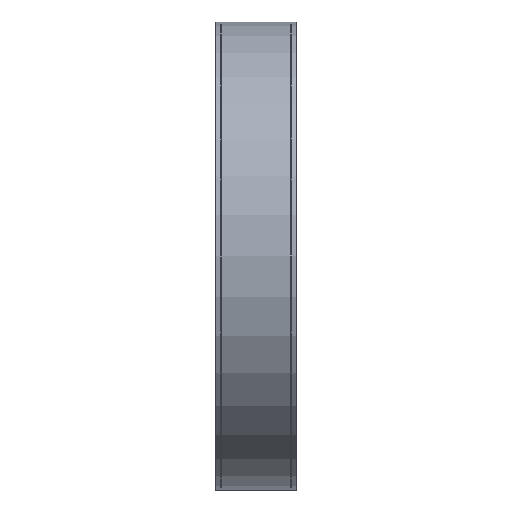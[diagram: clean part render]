
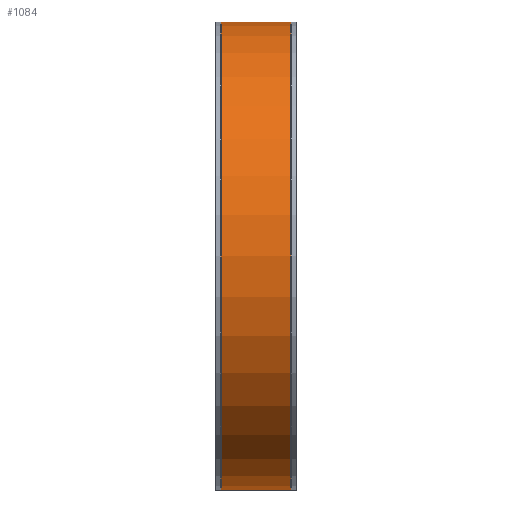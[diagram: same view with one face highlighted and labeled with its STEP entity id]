
A CAD part, left-side view. The second image highlights one B-rep face of the part: STEP entity #1084.
In plain terms, the highlighted cylindrical face has radius 40.45 mm (diameter 80.9 mm), a partial arc.
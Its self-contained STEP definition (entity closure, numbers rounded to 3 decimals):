
#575 = EDGE_CURVE ( 'NONE', #15438, #28349, #1631, .T. ) ;
#1084 = ADVANCED_FACE ( 'NONE', ( #20717 ), #7111, .T. ) ;
#1548 = DIRECTION ( 'NONE',  ( 0., -1., 0. ) ) ;
#1631 = CIRCLE ( 'NONE', #27017, 40.45 ) ;
#1700 = CARTESIAN_POINT ( 'NONE',  ( 0., 13., 0. ) ) ;
#2533 = EDGE_CURVE ( 'NONE', #29764, #15438, #15686, .T. ) ;
#2676 = CARTESIAN_POINT ( 'NONE',  ( 0., -15., 0. ) ) ;
#3009 = VECTOR ( 'NONE', #8865, 1000. ) ;
#3529 = ORIENTED_EDGE ( 'NONE', *, *, #29723, .T. ) ;
#3837 = LINE ( 'NONE', #13170, #3009 ) ;
#4517 = DIRECTION ( 'NONE',  ( 0., 0., 1. ) ) ;
#5696 = CARTESIAN_POINT ( 'NONE',  ( 0., 1., 40.45 ) ) ;
#5853 = CARTESIAN_POINT ( 'NONE',  ( 0., 1., 0. ) ) ;
#7111 = CYLINDRICAL_SURFACE ( 'NONE', #13848, 40.45 ) ;
#8797 = EDGE_LOOP ( 'NONE', ( #25715, #3529, #16043, #19627 ) ) ;
#8865 = DIRECTION ( 'NONE',  ( 0., 1., 0. ) ) ;
#13170 = CARTESIAN_POINT ( 'NONE',  ( 0., -15., -40.45 ) ) ;
#13848 = AXIS2_PLACEMENT_3D ( 'NONE', #2676, #23022, #4517 ) ;
#15438 = VERTEX_POINT ( 'NONE', #20375 ) ;
#15686 = LINE ( 'NONE', #20427, #20737 ) ;
#16043 = ORIENTED_EDGE ( 'NONE', *, *, #2533, .T. ) ;
#17151 = DIRECTION ( 'NONE',  ( 0., 0., 1. ) ) ;
#17695 = CARTESIAN_POINT ( 'NONE',  ( 0., 13., -40.45 ) ) ;
#18429 = DIRECTION ( 'NONE',  ( 0., 1., 0. ) ) ;
#19627 = ORIENTED_EDGE ( 'NONE', *, *, #575, .T. ) ;
#19731 = DIRECTION ( 'NONE',  ( 0., 0., -1. ) ) ;
#19901 = DIRECTION ( 'NONE',  ( 0., 1., 0. ) ) ;
#20375 = CARTESIAN_POINT ( 'NONE',  ( 0., 13., 40.45 ) ) ;
#20427 = CARTESIAN_POINT ( 'NONE',  ( 0., -15., 40.45 ) ) ;
#20717 = FACE_OUTER_BOUND ( 'NONE', #8797, .T. ) ;
#20737 = VECTOR ( 'NONE', #18429, 1000. ) ;
#22130 = CIRCLE ( 'NONE', #22614, 40.45 ) ;
#22614 = AXIS2_PLACEMENT_3D ( 'NONE', #5853, #19901, #17151 ) ;
#22814 = EDGE_CURVE ( 'NONE', #24946, #28349, #3837, .T. ) ;
#23022 = DIRECTION ( 'NONE',  ( 0., 1., 0. ) ) ;
#24946 = VERTEX_POINT ( 'NONE', #26981 ) ;
#25715 = ORIENTED_EDGE ( 'NONE', *, *, #22814, .F. ) ;
#26981 = CARTESIAN_POINT ( 'NONE',  ( 0., 1., -40.45 ) ) ;
#27017 = AXIS2_PLACEMENT_3D ( 'NONE', #1700, #1548, #19731 ) ;
#28349 = VERTEX_POINT ( 'NONE', #17695 ) ;
#29723 = EDGE_CURVE ( 'NONE', #24946, #29764, #22130, .T. ) ;
#29764 = VERTEX_POINT ( 'NONE', #5696 ) ;
